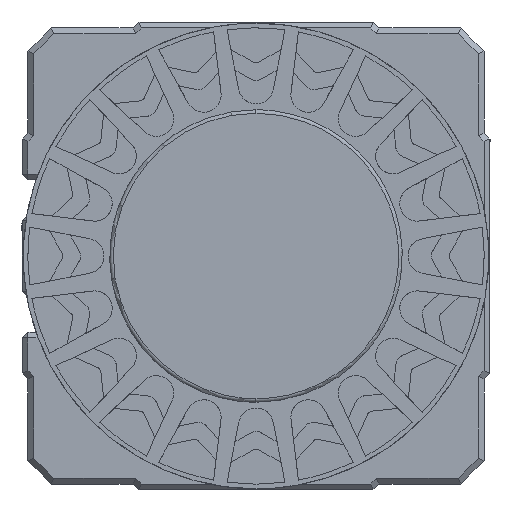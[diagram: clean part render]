
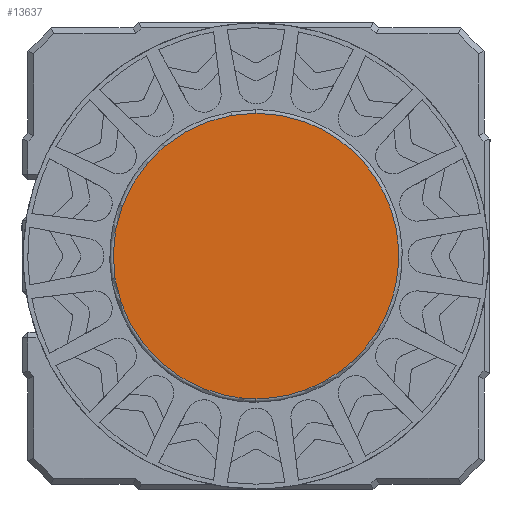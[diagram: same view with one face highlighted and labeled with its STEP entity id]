
A CAD part, front view. The second image highlights one B-rep face of the part: STEP entity #13637.
In plain terms, the highlighted planar face has unit normal (0, -1, 0).
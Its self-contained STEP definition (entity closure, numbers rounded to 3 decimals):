
#95 = VERTEX_POINT ( 'NONE', #4238 ) ;
#947 = CARTESIAN_POINT ( 'NONE',  ( -1.595, 0., 12.122 ) ) ;
#1052 = CARTESIAN_POINT ( 'NONE',  ( -1.595, 0., -12.122 ) ) ;
#1266 = CARTESIAN_POINT ( 'NONE',  ( -5.408, 0., 10.965 ) ) ;
#2422 = EDGE_CURVE ( 'NONE', #17713, #95, #15318, .T. ) ;
#2423 = CARTESIAN_POINT ( 'NONE',  ( 3.193, 0., -11.882 ) ) ;
#2655 = CARTESIAN_POINT ( 'NONE',  ( -12.122, 0., -1.595 ) ) ;
#2698 = B_SPLINE_CURVE_WITH_KNOTS ( 'NONE', 3,
 ( #13375, #6641, #947, #3099, #14972, #1266, #13149, #20340, #6186, #4701, #15319, #11665, #22159, #6528, #13493, #10055, #22272, #13602, #2655, #21930, #9608, #20113, #4475, #11443, #18398, #2765, #9723, #6297, #16696, #16808, #20225, #1052, #8018, #13261 ),
 .UNSPECIFIED., .F., .F.,
 ( 4, 2, 2, 2, 2, 2, 2, 2, 2, 2, 2, 2, 2, 2, 2, 2, 4 ),
 ( 0., 0.063, 0.125, 0.188, 0.25, 0.313, 0.375, 0.438, 0.5, 0.563, 0.625, 0.688, 0.75, 0.813, 0.875, 0.938, 1. ),
 .UNSPECIFIED. ) ;
#2765 = CARTESIAN_POINT ( 'NONE',  ( -8.061, 0., -9.193 ) ) ;
#3099 = CARTESIAN_POINT ( 'NONE',  ( -3.165, 0., 11.809 ) ) ;
#4027 = CARTESIAN_POINT ( 'NONE',  ( 11.882, 0., 3.193 ) ) ;
#4238 = CARTESIAN_POINT ( 'NONE',  ( 0., 0., -12.2 ) ) ;
#4475 = CARTESIAN_POINT ( 'NONE',  ( -10.589, 0., -6.112 ) ) ;
#4701 = CARTESIAN_POINT ( 'NONE',  ( -9.193, 0., 8.061 ) ) ;
#4750 = EDGE_LOOP ( 'NONE', ( #10331, #17475 ) ) ;
#5633 = CARTESIAN_POINT ( 'NONE',  ( 0., 0., 12.2 ) ) ;
#5966 = CARTESIAN_POINT ( 'NONE',  ( 12.2, 0., 1.597 ) ) ;
#6186 = CARTESIAN_POINT ( 'NONE',  ( -8.06, 0., 9.193 ) ) ;
#6297 = CARTESIAN_POINT ( 'NONE',  ( -6.112, 0., -10.589 ) ) ;
#6528 = CARTESIAN_POINT ( 'NONE',  ( -11.578, 0., 3.929 ) ) ;
#6641 = CARTESIAN_POINT ( 'NONE',  ( -0.801, 0., 12.2 ) ) ;
#7231 = CARTESIAN_POINT ( 'NONE',  ( 1.597, 0., -12.2 ) ) ;
#8018 = CARTESIAN_POINT ( 'NONE',  ( -0.801, 0., -12.2 ) ) ;
#9384 = CARTESIAN_POINT ( 'NONE',  ( 0., 0., -12.2 ) ) ;
#9608 = CARTESIAN_POINT ( 'NONE',  ( -11.578, 0., -3.929 ) ) ;
#9723 = CARTESIAN_POINT ( 'NONE',  ( -7.444, 0., -9.699 ) ) ;
#10055 = CARTESIAN_POINT ( 'NONE',  ( -12.122, 0., 1.595 ) ) ;
#10331 = ORIENTED_EDGE ( 'NONE', *, *, #2422, .F. ) ;
#10996 = CARTESIAN_POINT ( 'NONE',  ( 9.756, 0., -7.497 ) ) ;
#11107 = CARTESIAN_POINT ( 'NONE',  ( 1.597, 0., 12.2 ) ) ;
#11443 = CARTESIAN_POINT ( 'NONE',  ( -9.699, 0., -7.444 ) ) ;
#11665 = CARTESIAN_POINT ( 'NONE',  ( -10.589, 0., 6.112 ) ) ;
#12926 = CARTESIAN_POINT ( 'NONE',  ( 10.66, 0., 6.144 ) ) ;
#13149 = CARTESIAN_POINT ( 'NONE',  ( -6.112, 0., 10.589 ) ) ;
#13261 = CARTESIAN_POINT ( 'NONE',  ( 0., 0., -12.2 ) ) ;
#13375 = CARTESIAN_POINT ( 'NONE',  ( 0., 0., 12.2 ) ) ;
#13377 = CARTESIAN_POINT ( 'NONE',  ( 0., 0., 12.2 ) ) ;
#13493 = CARTESIAN_POINT ( 'NONE',  ( -11.809, 0., 3.165 ) ) ;
#13602 = CARTESIAN_POINT ( 'NONE',  ( -12.2, 0., -0.801 ) ) ;
#13637 = ADVANCED_FACE ( 'NONE', ( #14017 ), #20969, .T. ) ;
#14017 = FACE_OUTER_BOUND ( 'NONE', #4750, .T. ) ;
#14191 = CARTESIAN_POINT ( 'NONE',  ( 7.497, 0., -9.756 ) ) ;
#14525 = CARTESIAN_POINT ( 'NONE',  ( 12.2, 0., -1.597 ) ) ;
#14972 = CARTESIAN_POINT ( 'NONE',  ( -3.929, 0., 11.578 ) ) ;
#15318 = B_SPLINE_CURVE_WITH_KNOTS ( 'NONE', 3,
 ( #5633, #11107, #21485, #19666, #18062, #19551, #12926, #4027, #5966, #14525, #21157, #17841, #10996, #14191, #16248, #2423, #7231, #9384 ),
 .UNSPECIFIED., .F., .F.,
 ( 4, 2, 2, 2, 2, 2, 2, 2, 4 ),
 ( 0., 0.125, 0.25, 0.375, 0.5, 0.625, 0.75, 0.875, 1. ),
 .UNSPECIFIED. ) ;
#15319 = CARTESIAN_POINT ( 'NONE',  ( -9.699, 0., 7.444 ) ) ;
#16248 = CARTESIAN_POINT ( 'NONE',  ( 6.144, 0., -10.66 ) ) ;
#16696 = CARTESIAN_POINT ( 'NONE',  ( -5.408, 0., -10.965 ) ) ;
#16741 = EDGE_CURVE ( 'NONE', #17713, #95, #2698, .T. ) ;
#16808 = CARTESIAN_POINT ( 'NONE',  ( -3.929, 0., -11.578 ) ) ;
#17434 = DIRECTION ( 'NONE',  ( 0., 0., -1. ) ) ;
#17475 = ORIENTED_EDGE ( 'NONE', *, *, #16741, .T. ) ;
#17664 = CARTESIAN_POINT ( 'NONE',  ( 0., 0., 0. ) ) ;
#17713 = VERTEX_POINT ( 'NONE', #13377 ) ;
#17841 = CARTESIAN_POINT ( 'NONE',  ( 10.66, 0., -6.144 ) ) ;
#18062 = CARTESIAN_POINT ( 'NONE',  ( 7.497, 0., 9.756 ) ) ;
#18398 = CARTESIAN_POINT ( 'NONE',  ( -9.193, 0., -8.06 ) ) ;
#19030 = DIRECTION ( 'NONE',  ( 0., -1., 0. ) ) ;
#19551 = CARTESIAN_POINT ( 'NONE',  ( 9.756, 0., 7.497 ) ) ;
#19666 = CARTESIAN_POINT ( 'NONE',  ( 6.144, 0., 10.66 ) ) ;
#20113 = CARTESIAN_POINT ( 'NONE',  ( -10.965, 0., -5.408 ) ) ;
#20225 = CARTESIAN_POINT ( 'NONE',  ( -3.166, 0., -11.809 ) ) ;
#20305 = AXIS2_PLACEMENT_3D ( 'NONE', #17664, #19030, #17434 ) ;
#20340 = CARTESIAN_POINT ( 'NONE',  ( -7.444, 0., 9.699 ) ) ;
#20969 = PLANE ( 'NONE',  #20305 ) ;
#21157 = CARTESIAN_POINT ( 'NONE',  ( 11.882, 0., -3.193 ) ) ;
#21485 = CARTESIAN_POINT ( 'NONE',  ( 3.193, 0., 11.882 ) ) ;
#21930 = CARTESIAN_POINT ( 'NONE',  ( -11.809, 0., -3.165 ) ) ;
#22159 = CARTESIAN_POINT ( 'NONE',  ( -10.965, 0., 5.408 ) ) ;
#22272 = CARTESIAN_POINT ( 'NONE',  ( -12.2, 0., 0.801 ) ) ;
